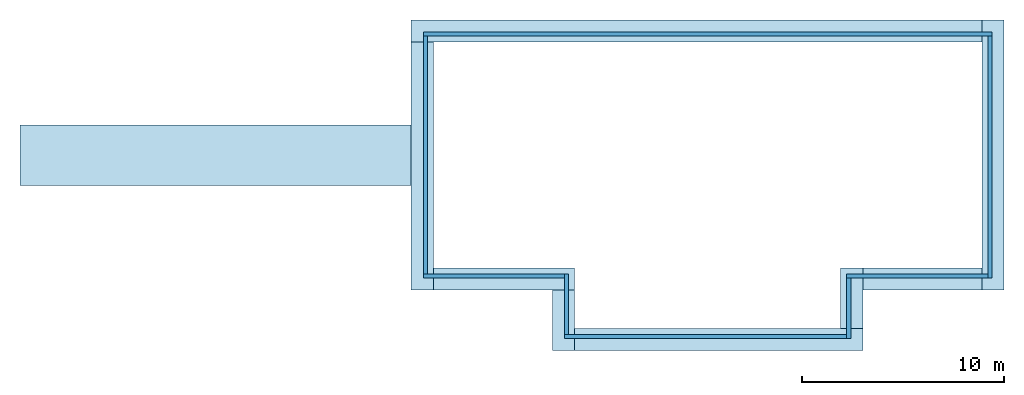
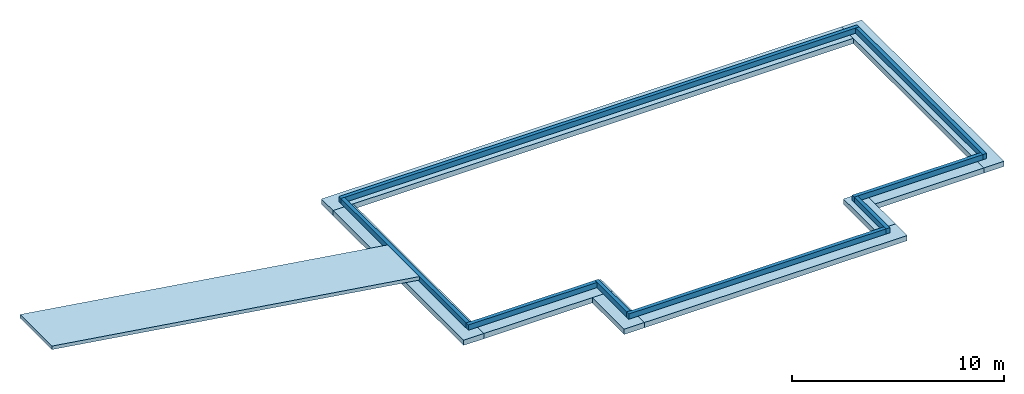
# One storey: 8 footings, 8 walls, 1 slab.
"""IFC2X3 building model written with IfcOpenShell, lengths in metres."""

from ifc_helpers import new_model, entity, si_unit, converted_unit, derived_unit, direction, frame, frame_2d, origin, place, context, subcontext, project, spatial, rectangle, extrude, clip, halfspace, material, layer, layer_set, layer_usage, type_object, element, save


model = new_model("IFC2X3")

# Units and contexts
model_context = context("Model", 3, precision=1e-05, world=origin(), true_north=direction((6.12303176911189e-17, 1.0)))
context_of_model = context(None, 3, precision=1e-05, world=origin(), true_north=direction((6.12303176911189e-17, 1.0)))
body_context = subcontext(model_context, "Body", "Model", "MODEL_VIEW")
ifc_project = project(units=[si_unit("LENGTHUNIT", "METRE"), si_unit("AREAUNIT", "SQUARE_METRE"), si_unit("VOLUMEUNIT", "CUBIC_METRE"), converted_unit("PLANEANGLEUNIT", "DEGREE", entity("IfcRatioMeasure", 0.0174532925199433), si_unit("PLANEANGLEUNIT", "RADIAN"), dimensions=[0, 0, 0, 0, 0, 0, 0]), si_unit("MASSUNIT", "GRAM", prefix="KILO"), derived_unit("MASSDENSITYUNIT", [(si_unit("MASSUNIT", "GRAM", prefix="KILO"), 1), (si_unit("LENGTHUNIT", "METRE"), -3)]), si_unit("TIMEUNIT", "SECOND"), si_unit("FREQUENCYUNIT", "HERTZ"), si_unit("THERMODYNAMICTEMPERATUREUNIT", "DEGREE_CELSIUS"), derived_unit("THERMALTRANSMITTANCEUNIT", [(si_unit("MASSUNIT", "GRAM", prefix="KILO"), 1), (si_unit("THERMODYNAMICTEMPERATUREUNIT", "KELVIN"), -1), (si_unit("TIMEUNIT", "SECOND"), -3)]), derived_unit("VOLUMETRICFLOWRATEUNIT", [(si_unit("LENGTHUNIT", "METRE"), 3), (si_unit("TIMEUNIT", "SECOND"), -1)]), si_unit("ELECTRICCURRENTUNIT", "AMPERE"), si_unit("ELECTRICVOLTAGEUNIT", "VOLT"), si_unit("POWERUNIT", "WATT"), si_unit("FORCEUNIT", "NEWTON"), si_unit("ILLUMINANCEUNIT", "LUX"), si_unit("LUMINOUSFLUXUNIT", "LUMEN"), si_unit("LUMINOUSINTENSITYUNIT", "CANDELA"), derived_unit("USERDEFINED", [(si_unit("MASSUNIT", "GRAM", prefix="KILO"), -1), (si_unit("LENGTHUNIT", "METRE"), -2), (si_unit("TIMEUNIT", "SECOND"), 3), (si_unit("LUMINOUSFLUXUNIT", "LUMEN"), 1)]), derived_unit("LINEARVELOCITYUNIT", [(si_unit("LENGTHUNIT", "METRE"), 1), (si_unit("TIMEUNIT", "SECOND"), -1)]), si_unit("PRESSUREUNIT", "PASCAL"), derived_unit("USERDEFINED", [(si_unit("LENGTHUNIT", "METRE"), -2), (si_unit("MASSUNIT", "GRAM", prefix="KILO"), 1), (si_unit("TIMEUNIT", "SECOND"), -2)])], contexts=[model_context, context_of_model])

# Site, building, storey
site_placement = place(None, origin())
site = spatial("IfcSite", under=ifc_project, at=site_placement, Name="Default", CompositionType="ELEMENT")
building_placement = place(site_placement, origin())
building = spatial("IfcBuilding", under=site, at=building_placement, CompositionType="ELEMENT")
storey_placement = place(building_placement, frame((0.0, 0.0, -3.3)))
storey = spatial("IfcBuildingStorey", under=building, at=storey_placement, Name="Fondations", CompositionType="ELEMENT", Elevation=-3.3)

# Footings
footing_1_placement = place(storey_placement, origin())
element("IfcFooting", 1, at=footing_1_placement, inside=storey, Name="Semelle filante:Soubassement de soutènement - 300 x 600 x 300", ObjectType="Semelle filante:Soubassement de soutènement - 300 x 600 x 300", PredefinedType="STRIP_FOOTING", context=body_context, shape_type="SweptSolid", body=[
    extrude(rectangle(XDim=13.4, YDim=1.1, at=frame_2d((8.88178419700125e-16, 0.183333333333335), x_axis=(1.0, 0.0))), frame((15.7593306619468, 2.96181014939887, -0.299999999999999), z_axis=(0.0, 0.0, 1.0), x_axis=(0.0, -1.0, 0.0)), (0.0, 0.0, 1.0), 0.3),
])
footing_2_placement = place(storey_placement, origin())
element("IfcFooting", 2, at=footing_2_placement, inside=storey, Name="Semelle filante:Soubassement de soutènement - 300 x 600 x 300", ObjectType="Semelle filante:Soubassement de soutènement - 300 x 600 x 300", PredefinedType="STRIP_FOOTING", context=body_context, shape_type="SweptSolid", body=[
    extrude(rectangle(XDim=28.3, YDim=1.1, at=frame_2d((2.61, 0.110000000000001), x_axis=(1.0, 0.0))), frame((-1.36733600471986, 9.00181014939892, -0.300000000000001)), (0.0, 0.0, 1.0), 0.3),
])
footing_3_placement = place(storey_placement, origin())
element("IfcFooting", 3, at=footing_3_placement, inside=storey, Name="Semelle filante:Soubassement de soutènement - 300 x 600 x 300", ObjectType="Semelle filante:Soubassement de soutènement - 300 x 600 x 300", PredefinedType="STRIP_FOOTING", context=body_context, shape_type="SweptSolid", body=[
    extrude(rectangle(XDim=12.3, YDim=1.1, at=frame_2d((1.01, 0.109999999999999), x_axis=(1.0, 0.0))), frame((-12.2473360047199, 1.40181014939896, -0.300000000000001), z_axis=(0.0, 0.0, 1.0), x_axis=(0.0, 1.0, 0.0)), (0.0, 0.0, 1.0), 0.3),
])
footing_4_placement = place(storey_placement, origin())
element("IfcFooting", 4, at=footing_4_placement, inside=storey, Name="Semelle filante:Soubassement de soutènement - 300 x 600 x 300", ObjectType="Semelle filante:Soubassement de soutènement - 300 x 600 x 300", PredefinedType="STRIP_FOOTING", context=body_context, shape_type="SweptSolid", body=[
    extrude(rectangle(XDim=6.99999999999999, YDim=1.1, at=frame_2d((0.48, -0.11), x_axis=(1.0, 0.0))), frame((-7.82733600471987, -3.29818985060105, -0.300000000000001), z_axis=(0.0, 0.0, 1.0), x_axis=(-1.0, 0.0, 0.0)), (0.0, 0.0, 1.0), 0.3),
])
footing_5_placement = place(storey_placement, origin())
element("IfcFooting", 5, at=footing_5_placement, inside=storey, Name="Semelle filante:Soubassement de soutènement - 300 x 600 x 300", ObjectType="Semelle filante:Soubassement de soutènement - 300 x 600 x 300", PredefinedType="STRIP_FOOTING", context=body_context, shape_type="SweptSolid", body=[
    extrude(rectangle(XDim=3.0, YDim=1.1, at=frame_2d((0.0799999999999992, 0.109999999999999), x_axis=(1.0, 0.0))), frame((-5.24733600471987, -5.31818985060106, -0.300000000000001), z_axis=(0.0, 0.0, 1.0), x_axis=(0.0, 1.0, 0.0)), (0.0, 0.0, 1.0), 0.3),
])
footing_6_placement = place(storey_placement, origin())
element("IfcFooting", 6, at=footing_6_placement, inside=storey, Name="Semelle filante:Soubassement de soutènement - 300 x 600 x 300", ObjectType="Semelle filante:Soubassement de soutènement - 300 x 600 x 300", PredefinedType="STRIP_FOOTING", context=body_context, shape_type="SweptSolid", body=[
    extrude(rectangle(XDim=14.3, YDim=1.1, at=frame_2d((1.21, 0.109999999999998), x_axis=(1.0, 0.0))), frame((3.55266399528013, -6.07818985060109, -0.300000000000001), z_axis=(0.0, 0.0, 1.0), x_axis=(-1.0, 0.0, 0.0)), (0.0, 0.0, 1.0), 0.3),
])
footing_7_placement = place(storey_placement, origin())
element("IfcFooting", 7, at=footing_7_placement, inside=storey, Name="Semelle filante:Soubassement de soutènement - 300 x 600 x 300", ObjectType="Semelle filante:Soubassement de soutènement - 300 x 600 x 300", PredefinedType="STRIP_FOOTING", context=body_context, shape_type="SweptSolid", body=[
    extrude(rectangle(XDim=3.0, YDim=1.1, at=frame_2d((0.0799999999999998, -0.11), x_axis=(1.0, 0.0))), frame((9.05266399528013, -4.05818985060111, -0.300000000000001), z_axis=(0.0, 0.0, 1.0), x_axis=(0.0, -1.0, 0.0)), (0.0, 0.0, 1.0), 0.3),
])
footing_8_placement = place(storey_placement, origin())
element("IfcFooting", 8, at=footing_8_placement, inside=storey, Name="Semelle filante:Soubassement de soutènement - 300 x 600 x 300", ObjectType="Semelle filante:Soubassement de soutènement - 300 x 600 x 300", PredefinedType="STRIP_FOOTING", context=body_context, shape_type="SweptSolid", body=[
    extrude(rectangle(XDim=5.9, YDim=1.1, at=frame_2d((1.11022302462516e-15, 0.0), x_axis=(1.0, 0.0))), frame((12.4426639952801, -3.18818985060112, -0.3), z_axis=(0.0, 0.0, 1.0), x_axis=(-1.0, 0.0, 0.0)), (0.0, 0.0, 1.0), 0.3),
])

# Slab
ifc_material = material(Name="Béton - Coulé sur place - Béton20")
ifc_layer_1 = layer(ifc_material, 0.2)
ifc_layer_set_1 = layer_set([ifc_layer_1], Name="Sol:Dalle pleine 200 mm")
ifc_layer_usage_1 = layer_usage(ifc_layer_set_1, "AXIS3", "POSITIVE", 0.0)
slab_placement = place(storey_placement, origin())
element("IfcSlab", 9, at=slab_placement, inside=storey, material=ifc_layer_usage_1, Name="Sol:Dalle pleine 200 mm", ObjectType="Sol:Dalle pleine 200 mm", PredefinedType="FLOOR", context=body_context, shape_type="Clipping", body=[
    clip(clip(extrude(rectangle(XDim=20.2237484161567, YDim=3.0, at=frame_2d((0.0, 0.0), x_axis=(0.0, 1.0))), frame((-22.3073360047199, 2.96181014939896, 1.79999999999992), z_axis=(-0.148340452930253, 0.0, -0.988936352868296), x_axis=(0.0, 1.0, 0.0)), (0.0, 0.148340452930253, 0.988936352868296), 0.204500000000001), halfspace(frame((-32.3073360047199, 2.96181014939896, 3.09776251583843), z_axis=(-0.148340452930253, 0.0, -0.988936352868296), x_axis=(0.988936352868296, 0.0, -0.148340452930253)), False)), halfspace(frame((-32.3073360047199, 2.96181014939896, 3.3), z_axis=(0.148340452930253, 0.0, 0.988936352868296), x_axis=(-0.988936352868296, 0.0, 0.148340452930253)), False)),
])

# Walls
ifc_layer_2 = layer(ifc_material, 0.2)
ifc_layer_set_2 = layer_set([ifc_layer_2], Name="Mur de base:Générique - 200 mm")
ifc_layer_usage_2 = layer_usage(ifc_layer_set_2, "AXIS2", "NEGATIVE", 0.1)
wall_type = type_object("IfcWallType", Name="Mur de base:Générique - 200 mm", PredefinedType="STANDARD", material=ifc_layer_set_2)
wall_1_placement = place(storey_placement, frame((-12.3073360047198, 8.96181014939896, 0.0)))
element("IfcWallStandardCase", 10, at=wall_1_placement, inside=storey, type_object=wall_type, material=ifc_layer_usage_2, Name="Mur de base:Générique - 200 mm", ObjectType="Mur de base:Générique - 200 mm:1044", context=body_context, shape_type="SweptSolid", body=[
    extrude(rectangle(XDim=28.2, YDim=0.2, at=frame_2d((14.1, 3.19189119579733e-16), x_axis=(-1.0, 0.0))), origin(), (0.0, 0.0, 1.0), 0.299999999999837),
])
ifc_layer_usage_3 = layer_usage(ifc_layer_set_2, "AXIS2", "NEGATIVE", 0.1)
wall_2_placement = place(storey_placement, frame((15.7926639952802, 8.86181014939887, 0.0), z_axis=(0.0, 0.0, 1.0), x_axis=(0.0, -1.0, 0.0)))
element("IfcWallStandardCase", 11, at=wall_2_placement, inside=storey, type_object=wall_type, material=ifc_layer_usage_3, Name="Mur de base:Générique - 200 mm", ObjectType="Mur de base:Générique - 200 mm:1044", context=body_context, shape_type="SweptSolid", body=[
    extrude(rectangle(XDim=12.0, YDim=0.199999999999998, at=frame_2d((6.0, 0.0), x_axis=(-1.0, 0.0))), origin(), (0.0, 0.0, 1.0), 0.299999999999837),
])
ifc_layer_usage_4 = layer_usage(ifc_layer_set_2, "AXIS2", "NEGATIVE", 0.1)
wall_3_placement = place(storey_placement, frame((15.6926639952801, -3.03818985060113, 0.0), z_axis=(0.0, 0.0, 1.0), x_axis=(-1.0, 0.0, 0.0)))
element("IfcWallStandardCase", 12, at=wall_3_placement, inside=storey, type_object=wall_type, material=ifc_layer_usage_4, Name="Mur de base:Générique - 200 mm", ObjectType="Mur de base:Générique - 200 mm:1044", context=body_context, shape_type="SweptSolid", body=[
    extrude(rectangle(XDim=7.0, YDim=0.2, at=frame_2d((3.5, 0.0), x_axis=(-1.0, 0.0))), origin(), (0.0, 0.0, 1.0), 0.299999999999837),
])
ifc_layer_usage_5 = layer_usage(ifc_layer_set_2, "AXIS2", "NEGATIVE", 0.1)
wall_4_placement = place(storey_placement, frame((8.79266399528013, -3.13818985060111, 0.0), z_axis=(0.0, 0.0, 1.0), x_axis=(0.0, -1.0, 0.0)))
element("IfcWallStandardCase", 13, at=wall_4_placement, inside=storey, type_object=wall_type, material=ifc_layer_usage_5, Name="Mur de base:Générique - 200 mm", ObjectType="Mur de base:Générique - 200 mm:1044", context=body_context, shape_type="SweptSolid", body=[
    extrude(rectangle(XDim=3.0, YDim=0.2, at=frame_2d((1.5, 0.0), x_axis=(-1.0, 0.0))), origin(), (0.0, 0.0, 1.0), 0.299999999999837),
])
ifc_layer_usage_6 = layer_usage(ifc_layer_set_2, "AXIS2", "NEGATIVE", 0.1)
wall_5_placement = place(storey_placement, frame((8.69266399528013, -6.03818985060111, 0.0), z_axis=(0.0, 0.0, 1.0), x_axis=(-1.0, 0.0, 0.0)))
element("IfcWallStandardCase", 14, at=wall_5_placement, inside=storey, type_object=wall_type, material=ifc_layer_usage_6, Name="Mur de base:Générique - 200 mm", ObjectType="Mur de base:Générique - 200 mm:1044", context=body_context, shape_type="SweptSolid", body=[
    extrude(rectangle(XDim=14.0, YDim=0.2, at=frame_2d((7.0, 0.0), x_axis=(-1.0, 0.0))), origin(), (0.0, 0.0, 1.0), 0.299999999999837),
])
ifc_layer_usage_7 = layer_usage(ifc_layer_set_2, "AXIS2", "NEGATIVE", 0.1)
wall_6_placement = place(storey_placement, frame((-5.20733600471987, -5.93818985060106, 0.0), z_axis=(0.0, 0.0, 1.0), x_axis=(0.0, 1.0, 0.0)))
element("IfcWallStandardCase", 15, at=wall_6_placement, inside=storey, type_object=wall_type, material=ifc_layer_usage_7, Name="Mur de base:Générique - 200 mm", ObjectType="Mur de base:Générique - 200 mm:1044", context=body_context, shape_type="SweptSolid", body=[
    extrude(rectangle(XDim=3.0, YDim=0.2, at=frame_2d((1.5, 0.0), x_axis=(-1.0, 0.0))), origin(), (0.0, 0.0, 1.0), 0.299999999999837),
])
ifc_layer_usage_8 = layer_usage(ifc_layer_set_2, "AXIS2", "NEGATIVE", 0.1)
wall_7_placement = place(storey_placement, frame((-5.30733600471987, -3.03818985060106, 0.0), z_axis=(0.0, 0.0, 1.0), x_axis=(-1.0, 0.0, 0.0)))
element("IfcWallStandardCase", 16, at=wall_7_placement, inside=storey, type_object=wall_type, material=ifc_layer_usage_8, Name="Mur de base:Générique - 200 mm", ObjectType="Mur de base:Générique - 200 mm:1044", context=body_context, shape_type="SweptSolid", body=[
    extrude(rectangle(XDim=7.0, YDim=0.2, at=frame_2d((3.5, 0.0), x_axis=(-1.0, 0.0))), origin(), (0.0, 0.0, 1.0), 0.299999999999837),
])
ifc_layer_usage_9 = layer_usage(ifc_layer_set_2, "AXIS2", "NEGATIVE", 0.1)
wall_8_placement = place(storey_placement, frame((-12.2073360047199, -2.93818985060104, 0.0), z_axis=(0.0, 0.0, 1.0), x_axis=(0.0, 1.0, 0.0)))
element("IfcWallStandardCase", 17, at=wall_8_placement, inside=storey, type_object=wall_type, material=ifc_layer_usage_9, Name="Mur de base:Générique - 200 mm", ObjectType="Mur de base:Générique - 200 mm:1044", context=body_context, shape_type="SweptSolid", body=[
    extrude(rectangle(XDim=11.8, YDim=0.199999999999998, at=frame_2d((5.9, -1.59594559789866e-16), x_axis=(-1.0, 0.0))), origin(), (0.0, 0.0, 1.0), 0.299999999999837),
])

save(model, "model.ifc")
